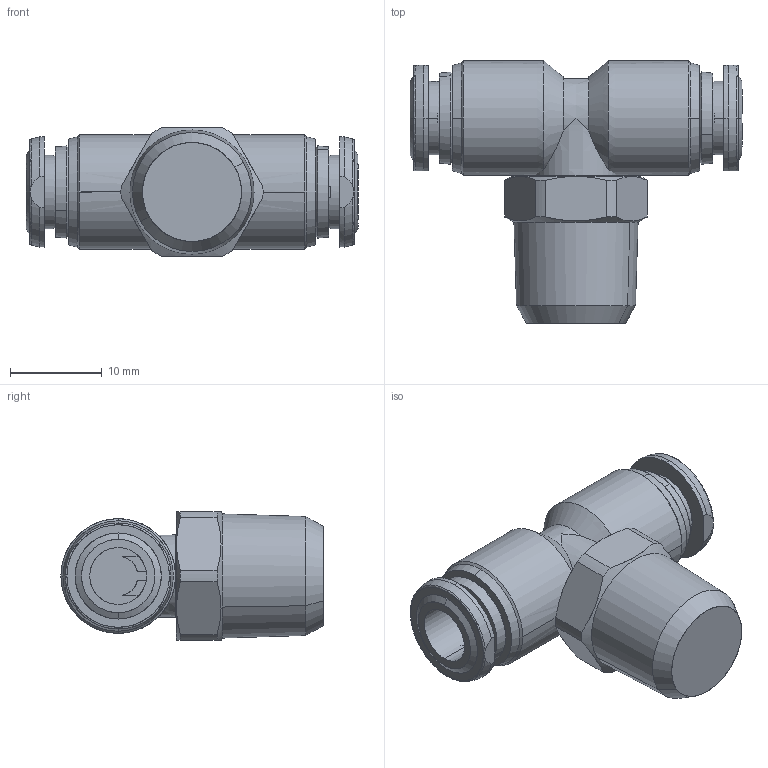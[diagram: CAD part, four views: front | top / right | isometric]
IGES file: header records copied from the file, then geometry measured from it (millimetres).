
Start section: SolidWorks IGES file using analytic representation for surfaces
Global section: file name: C:\Users\cad07\Desktop\desktop\Desktop\VARI\60000X step\60210X\60210X0004.IGS; native system: SolidWorks 2020; preprocessor: SolidWorks 2020; author: cad07; date: 240417.152118; units: millimetre
Bounding box: 36.2 x 28.6 x 14 mm (x, y, z)
Surface area: 3357.3 mm2 (no closed solid volume)
Topology: 0 solids, 0 shells, 152 faces, 1903 edges, 1903 vertices
Faces by surface type: revolution 94, bspline 58
